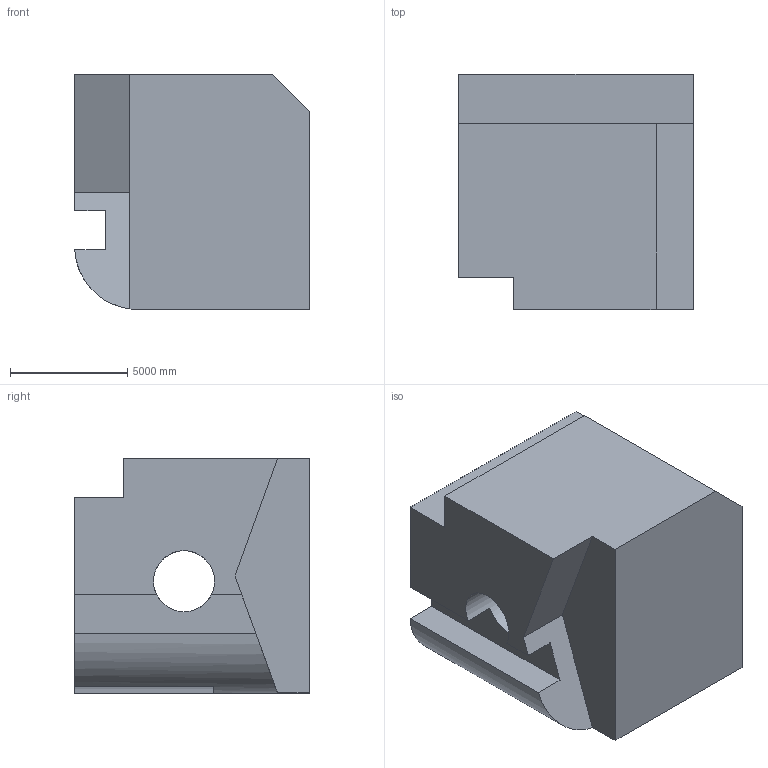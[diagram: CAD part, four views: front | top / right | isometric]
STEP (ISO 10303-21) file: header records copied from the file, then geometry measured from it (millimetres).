
FILE_DESCRIPTION (( 'STEP AP203' ), '1' );
FILE_NAME ('627.STEP', '2022-07-29T12:10:33', ( 'user' ), ( '' ), 'SwSTEP 2.0', 'SolidWorks 2021', '' );
FILE_SCHEMA (( 'CONFIG_CONTROL_DESIGN' ));
Length unit declared in the file: centimetre
Products named in the file (1): 627
Bounding box: 10000 x 10000 x 10000 mm (x, y, z)
Volume: 796704983191.1 mm3; surface area: 649872655.1 mm2
Topology: 1 solids, 1 shells, 23 faces, 66 edges, 44 vertices
Faces by surface type: plane 18, cylinder 5
Entity records: 834 total; most frequent: CARTESIAN_POINT 137, ORIENTED_EDGE 132, DIRECTION 126, EDGE_CURVE 66, LINE 52, VECTOR 52, VERTEX_POINT 44, AXIS2_PLACEMENT_3D 37
